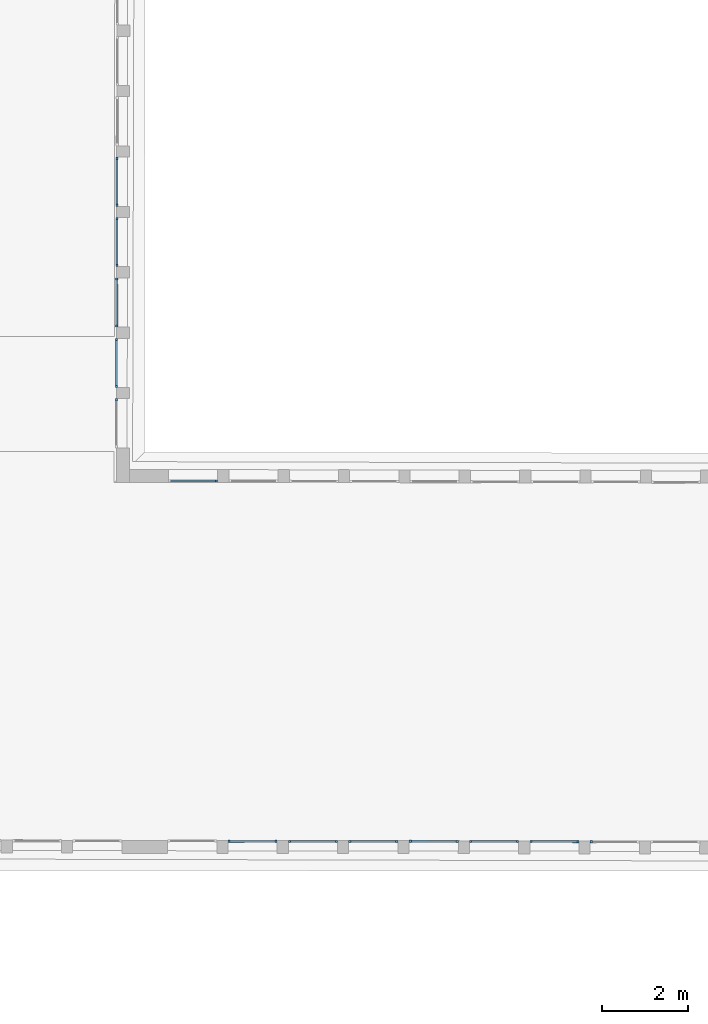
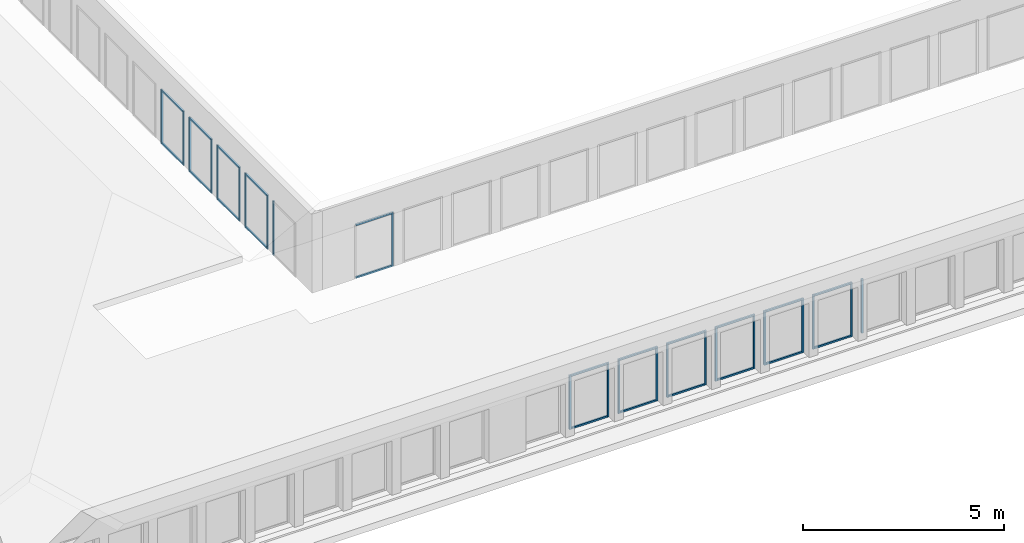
# One storey, part 4 of 26: 45 members, 13 elements without a shape of their own.
"""IFC2X3 building model written with IfcOpenShell, lengths in metres."""

from ifc_helpers import new_model, entity, si_unit, converted_unit, derived_unit, direction, frame, origin, origin_2d_with_axis, place, context, subcontext, project, spatial, rectangle, extrude, source, transform, mapped, material, type_object, type_shapes, element, aggregate, save


model = new_model("IFC2X3")

# Units and contexts
model_context = context("Model", 3, precision=1e-05, world=origin(), true_north=direction((6.123233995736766e-17, 1.0)))
body_context = subcontext(model_context, "Body", "Model", "MODEL_VIEW")
ifc_project = project(units=[si_unit("LENGTHUNIT", "METRE"), si_unit("AREAUNIT", "SQUARE_METRE"), converted_unit("PLANEANGLEUNIT", "DEGREE", entity("IfcPlaneAngleMeasure", 0.017453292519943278), si_unit("PLANEANGLEUNIT", "RADIAN"), dimensions=[0, 0, 0, 0, 0, 0, 0]), derived_unit("THERMALTRANSMITTANCEUNIT", [(si_unit("MASSUNIT", "GRAM", prefix="KILO"), 1), (si_unit("THERMODYNAMICTEMPERATUREUNIT", "KELVIN"), -1), (si_unit("TIMEUNIT", "SECOND"), -3)])], contexts=[model_context])

# Site, building, storey
site_placement = place(None, frame((1253.6752467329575, 2072.143113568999, 91.49999999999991), z_axis=(0.0, 0.0, 1.0), x_axis=(0.7237211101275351, 0.6900925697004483, 0.0)))
site = spatial("IfcSite", under=ifc_project, at=site_placement, Name="Surface", CompositionType="ELEMENT")
building_placement = place(site_placement, origin())
building = spatial("IfcBuilding", under=site, at=building_placement, CompositionType="ELEMENT")
storey_placement = place(building_placement, frame((0.0, 0.0, 7.0)))
storey = spatial("IfcBuildingStorey", under=building, at=storey_placement, Name="2-R+2", CompositionType="ELEMENT", Elevation=6.999999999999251)

# Curtain wall, member
curtain_wall_type = type_object("IfcCurtainWallType", Name="Mur-rideau:Menuiserie Ext 1F+1OB VERTIC", PredefinedType="NOTDEFINED")
curtain_wall_1_placement = place(storey_placement, frame((0.0, 0.0, -7.0)))
curtain_wall_1 = element("IfcCurtainWall", 1, at=curtain_wall_1_placement, inside=storey, type_object=curtain_wall_type, Name="Mur-rideau:Menuiserie Ext 1F+1OB VERTIC", ObjectType="Mur-rideau:Menuiserie Ext 1F+1OB VERTIC")
ifc_material = material(Name="OMD_Aluminium Men Ext")
member_type_1 = type_object("IfcMemberType", Name="Meneau rectangulaire:50x50", PredefinedType="MULLION", material=ifc_material)
shared_shape_1 = source(origin(), body_context, "Body", "SweptSolid", [
    extrude(rectangle(XDim=0.05, YDim=0.049999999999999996, at=origin_2d_with_axis()), frame((-0.025, 0.0, -1.039999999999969), z_axis=(0.0, 0.0, 1.0), x_axis=(-1.0, 0.0, 0.0)), (0.0, 0.0, 1.0), 1.0399999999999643),
])
type_shapes(member_type_1, [shared_shape_1])
member_1_placement = place(curtain_wall_1_placement, frame((164.80145826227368, 6.462655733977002, 9.55), z_axis=(0.6909838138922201, 0.7228702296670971, 0.0), x_axis=(0.0, 0.0, 1.0)))
member_1 = element("IfcMember", 2, at=member_1_placement, type_object=member_type_1, material=ifc_material, Name="Meneau rectangulaire:50x50", ObjectType="Meneau rectangulaire:50x50", context=body_context, shape_type="MappedRepresentation", body=[
    mapped(shared_shape_1, transform((0.0, 0.0, 0.0), scale=1.0)),
])

curtain_wall_2_placement = place(storey_placement, frame((0.0, 0.0, -7.0)))
curtain_wall_2 = element("IfcCurtainWall", 3, at=curtain_wall_2_placement, inside=storey, type_object=curtain_wall_type, Name="Mur-rideau:Menuiserie Ext 1F+1OB VERTIC", ObjectType="Mur-rideau:Menuiserie Ext 1F+1OB VERTIC")
member_2_placement = place(curtain_wall_2_placement, frame((163.83269277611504, 5.451966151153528, 9.55), z_axis=(0.6909838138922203, 0.7228702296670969, 0.0), x_axis=(0.0, 0.0, 1.0)))
member_2 = element("IfcMember", 4, at=member_2_placement, type_object=member_type_1, material=ifc_material, Name="Meneau rectangulaire:50x50", ObjectType="Meneau rectangulaire:50x50", context=body_context, shape_type="MappedRepresentation", body=[
    mapped(shared_shape_1, transform((0.0, 0.0, 0.0), scale=1.0)),
])

curtain_wall_3_placement = place(storey_placement, frame((0.0, 0.0, -7.0)))
curtain_wall_3 = element("IfcCurtainWall", 5, at=curtain_wall_3_placement, inside=storey, type_object=curtain_wall_type, Name="Mur-rideau:Menuiserie Ext 1F+1OB VERTIC", ObjectType="Mur-rideau:Menuiserie Ext 1F+1OB VERTIC")
member_3_placement = place(curtain_wall_3_placement, frame((162.8639272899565, 4.441276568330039, 9.55), z_axis=(0.6909838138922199, 0.7228702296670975, 0.0), x_axis=(0.0, 0.0, 1.0)))
member_3 = element("IfcMember", 6, at=member_3_placement, type_object=member_type_1, material=ifc_material, Name="Meneau rectangulaire:50x50", ObjectType="Meneau rectangulaire:50x50", context=body_context, shape_type="MappedRepresentation", body=[
    mapped(shared_shape_1, transform((0.0, 0.0, 0.0), scale=1.0)),
])

curtain_wall_4_placement = place(storey_placement, frame((0.0, 0.0, -7.0)))
curtain_wall_4 = element("IfcCurtainWall", 7, at=curtain_wall_4_placement, inside=storey, type_object=curtain_wall_type, Name="Mur-rideau:Menuiserie Ext 1F+1OB VERTIC", ObjectType="Mur-rideau:Menuiserie Ext 1F+1OB VERTIC")
member_4_placement = place(curtain_wall_4_placement, frame((161.89516180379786, 3.4305869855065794, 9.55), z_axis=(0.6909838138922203, 0.7228702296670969, 0.0), x_axis=(0.0, 0.0, 1.0)))
member_4 = element("IfcMember", 8, at=member_4_placement, type_object=member_type_1, material=ifc_material, Name="Meneau rectangulaire:50x50", ObjectType="Meneau rectangulaire:50x50", context=body_context, shape_type="MappedRepresentation", body=[
    mapped(shared_shape_1, transform((0.0, 0.0, 0.0), scale=1.0)),
])

curtain_wall_5_placement = place(storey_placement, frame((0.0, 0.0, -7.0)))
curtain_wall_5 = element("IfcCurtainWall", 9, at=curtain_wall_5_placement, inside=storey, type_object=curtain_wall_type, Name="Mur-rideau:Menuiserie Ext 1F+1OB VERTIC", ObjectType="Mur-rideau:Menuiserie Ext 1F+1OB VERTIC")
member_5_placement = place(curtain_wall_5_placement, frame((161.30523311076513, -0.5127198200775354, 9.55), z_axis=(0.7228702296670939, -0.6909838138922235, 0.0), x_axis=(0.0, 0.0, 1.0)))
member_5 = element("IfcMember", 10, at=member_5_placement, type_object=member_type_1, material=ifc_material, Name="Meneau rectangulaire:50x50", ObjectType="Meneau rectangulaire:50x50", context=body_context, shape_type="MappedRepresentation", body=[
    mapped(shared_shape_1, transform((0.0, 0.0, 0.0), scale=1.0)),
])

curtain_wall_6_placement = place(storey_placement, frame((0.0, 0.0, -7.0)))
curtain_wall_6 = element("IfcCurtainWall", 11, at=curtain_wall_6_placement, inside=storey, type_object=curtain_wall_type, Name="Mur-rideau:Menuiserie Ext 1F+1OB VERTIC", ObjectType="Mur-rideau:Menuiserie Ext 1F+1OB VERTIC")
member_6_placement = place(curtain_wall_6_placement, frame((160.84555256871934, -11.627908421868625, 9.55), z_axis=(-0.7228702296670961, 0.6909838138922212, 0.0), x_axis=(0.0, 0.0, 1.0)))
member_6 = element("IfcMember", 12, at=member_6_placement, type_object=member_type_1, material=ifc_material, Name="Meneau rectangulaire:50x50", ObjectType="Meneau rectangulaire:50x50", context=body_context, shape_type="MappedRepresentation", body=[
    mapped(shared_shape_1, transform((0.0, 0.0, 0.0), scale=1.0)),
])

curtain_wall_7_placement = place(storey_placement, frame((0.0, 0.0, -7.0)))
curtain_wall_7 = element("IfcCurtainWall", 13, at=curtain_wall_7_placement, inside=storey, type_object=curtain_wall_type, Name="Mur-rideau:Menuiserie Ext 1F+1OB VERTIC", ObjectType="Mur-rideau:Menuiserie Ext 1F+1OB VERTIC")
member_7_placement = place(curtain_wall_7_placement, frame((159.83486298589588, -10.659142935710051, 9.55), z_axis=(-0.7228702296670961, 0.6909838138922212, 0.0), x_axis=(0.0, 0.0, 1.0)))
member_7 = element("IfcMember", 14, at=member_7_placement, type_object=member_type_1, material=ifc_material, Name="Meneau rectangulaire:50x50", ObjectType="Meneau rectangulaire:50x50", context=body_context, shape_type="MappedRepresentation", body=[
    mapped(shared_shape_1, transform((0.0, 0.0, 0.0), scale=1.0)),
])

curtain_wall_8_placement = place(storey_placement, frame((0.0, 0.0, -7.0)))
curtain_wall_8 = element("IfcCurtainWall", 15, at=curtain_wall_8_placement, inside=storey, type_object=curtain_wall_type, Name="Mur-rideau:Menuiserie Ext 1F+1OB VERTIC", ObjectType="Mur-rideau:Menuiserie Ext 1F+1OB VERTIC")
member_8_placement = place(curtain_wall_8_placement, frame((158.82417340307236, -9.690377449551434, 9.55), z_axis=(-0.7228702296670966, 0.6909838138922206, 0.0), x_axis=(0.0, 0.0, 1.0)))
member_8 = element("IfcMember", 16, at=member_8_placement, type_object=member_type_1, material=ifc_material, Name="Meneau rectangulaire:50x50", ObjectType="Meneau rectangulaire:50x50", context=body_context, shape_type="MappedRepresentation", body=[
    mapped(shared_shape_1, transform((0.0, 0.0, 0.0), scale=1.0)),
])

curtain_wall_9_placement = place(storey_placement, frame((0.0, 0.0, -7.0)))
curtain_wall_9 = element("IfcCurtainWall", 17, at=curtain_wall_9_placement, inside=storey, type_object=curtain_wall_type, Name="Mur-rideau:Menuiserie Ext 1F+1OB VERTIC", ObjectType="Mur-rideau:Menuiserie Ext 1F+1OB VERTIC")
member_9_placement = place(curtain_wall_9_placement, frame((157.80656406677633, -8.72883117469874, 9.55), z_axis=(-0.7228702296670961, 0.6909838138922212, 0.0), x_axis=(0.0, 0.0, 1.0)))
member_9 = element("IfcMember", 18, at=member_9_placement, type_object=member_type_1, material=ifc_material, Name="Meneau rectangulaire:50x50", ObjectType="Meneau rectangulaire:50x50", context=body_context, shape_type="MappedRepresentation", body=[
    mapped(shared_shape_1, transform((0.0, 0.0, 0.0), scale=1.0)),
])

curtain_wall_10_placement = place(storey_placement, frame((0.0, 0.0, -7.0)))
curtain_wall_10 = element("IfcCurtainWall", 19, at=curtain_wall_10_placement, inside=storey, type_object=curtain_wall_type, Name="Mur-rideau:Menuiserie Ext 1F+1OB VERTIC", ObjectType="Mur-rideau:Menuiserie Ext 1F+1OB VERTIC")
member_10_placement = place(curtain_wall_10_placement, frame((156.79587448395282, -7.760065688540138, 9.55), z_axis=(-0.7228702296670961, 0.6909838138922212, 0.0), x_axis=(0.0, 0.0, 1.0)))
member_10 = element("IfcMember", 20, at=member_10_placement, type_object=member_type_1, material=ifc_material, Name="Meneau rectangulaire:50x50", ObjectType="Meneau rectangulaire:50x50", context=body_context, shape_type="MappedRepresentation", body=[
    mapped(shared_shape_1, transform((0.0, 0.0, 0.0), scale=1.0)),
])

curtain_wall_11_placement = place(storey_placement, frame((0.0, 0.0, -7.0)))
curtain_wall_11 = element("IfcCurtainWall", 21, at=curtain_wall_11_placement, inside=storey, type_object=curtain_wall_type, Name="Mur-rideau:Menuiserie Ext 1F+1OB VERTIC", ObjectType="Mur-rideau:Menuiserie Ext 1F+1OB VERTIC")
member_11_placement = place(curtain_wall_11_placement, frame((155.78518490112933, -6.791300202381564, 9.55), z_axis=(-0.722870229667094, 0.6909838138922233, 0.0), x_axis=(0.0, 0.0, 1.0)))
member_11 = element("IfcMember", 22, at=member_11_placement, type_object=member_type_1, material=ifc_material, Name="Meneau rectangulaire:50x50", ObjectType="Meneau rectangulaire:50x50", context=body_context, shape_type="MappedRepresentation", body=[
    mapped(shared_shape_1, transform((0.0, 0.0, 0.0), scale=1.0)),
])

# Member
member_type_2 = type_object("IfcMemberType", Name="Meneau rectangulaire:50x50", PredefinedType="MULLION", material=ifc_material)
shared_shape_2 = source(origin(), body_context, "Body", "SweptSolid", [
    extrude(rectangle(XDim=0.05, YDim=0.05, at=origin_2d_with_axis()), frame((-0.025, 0.0, -1.0399999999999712), z_axis=(0.0, 0.0, 1.0), x_axis=(-1.0, 0.0, 0.0)), (0.0, 0.0, 1.0), 1.0399999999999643),
])
type_shapes(member_type_2, [shared_shape_2])
member_12_placement = place(curtain_wall_1_placement, frame((164.0828350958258, 5.710870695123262, 7.9), z_axis=(-0.6909838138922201, -0.7228702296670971, 0.0), x_axis=(0.0, 0.0, -1.0)))
member_12 = element("IfcMember", 23, at=member_12_placement, type_object=member_type_2, material=ifc_material, Name="Meneau rectangulaire:50x50", ObjectType="Meneau rectangulaire:50x50", context=body_context, shape_type="MappedRepresentation", body=[
    mapped(shared_shape_2, transform((0.0, 0.0, 0.0), scale=1.0)),
])

member_13_placement = place(curtain_wall_2_placement, frame((163.11406960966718, 4.700181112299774, 7.9), z_axis=(-0.6909838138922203, -0.7228702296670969, 0.0), x_axis=(0.0, 0.0, -1.0)))
member_13 = element("IfcMember", 24, at=member_13_placement, type_object=member_type_2, material=ifc_material, Name="Meneau rectangulaire:50x50", ObjectType="Meneau rectangulaire:50x50", context=body_context, shape_type="MappedRepresentation", body=[
    mapped(shared_shape_2, transform((0.0, 0.0, 0.0), scale=1.0)),
])

member_14_placement = place(curtain_wall_3_placement, frame((162.14530412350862, 3.6894915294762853, 7.9), z_axis=(-0.6909838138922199, -0.7228702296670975, 0.0), x_axis=(0.0, 0.0, -1.0)))
member_14 = element("IfcMember", 25, at=member_14_placement, type_object=member_type_2, material=ifc_material, Name="Meneau rectangulaire:50x50", ObjectType="Meneau rectangulaire:50x50", context=body_context, shape_type="MappedRepresentation", body=[
    mapped(shared_shape_2, transform((0.0, 0.0, 0.0), scale=1.0)),
])

member_15_placement = place(curtain_wall_4_placement, frame((161.17653863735, 2.6788019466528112, 7.9), z_axis=(-0.6909838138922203, -0.7228702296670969, 0.0), x_axis=(0.0, 0.0, -1.0)))
member_15 = element("IfcMember", 26, at=member_15_placement, type_object=member_type_2, material=ifc_material, Name="Meneau rectangulaire:50x50", ObjectType="Meneau rectangulaire:50x50", context=body_context, shape_type="MappedRepresentation", body=[
    mapped(shared_shape_2, transform((0.0, 0.0, 0.0), scale=1.0)),
])

member_16_placement = place(curtain_wall_5_placement, frame((160.55344807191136, 0.205903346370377, 7.9), z_axis=(-0.7228702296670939, 0.6909838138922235, 0.0), x_axis=(0.0, 0.0, -1.0)))
member_16 = element("IfcMember", 27, at=member_16_placement, type_object=member_type_2, material=ifc_material, Name="Meneau rectangulaire:50x50", ObjectType="Meneau rectangulaire:50x50", context=body_context, shape_type="MappedRepresentation", body=[
    mapped(shared_shape_2, transform((0.0, 0.0, 0.0), scale=1.0)),
])

member_17_placement = place(curtain_wall_6_placement, frame((161.59733760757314, -12.346531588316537, 7.900000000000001), z_axis=(0.7228702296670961, -0.6909838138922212, 0.0), x_axis=(0.0, 0.0, -1.0)))
member_17 = element("IfcMember", 28, at=member_17_placement, type_object=member_type_2, material=ifc_material, Name="Meneau rectangulaire:50x50", ObjectType="Meneau rectangulaire:50x50", context=body_context, shape_type="MappedRepresentation", body=[
    mapped(shared_shape_2, transform((0.0, 0.0, 0.0), scale=1.0)),
])

member_18_placement = place(curtain_wall_7_placement, frame((160.58664802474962, -11.377766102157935, 7.900000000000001), z_axis=(0.7228702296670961, -0.6909838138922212, 0.0), x_axis=(0.0, 0.0, -1.0)))
member_18 = element("IfcMember", 29, at=member_18_placement, type_object=member_type_2, material=ifc_material, Name="Meneau rectangulaire:50x50", ObjectType="Meneau rectangulaire:50x50", context=body_context, shape_type="MappedRepresentation", body=[
    mapped(shared_shape_2, transform((0.0, 0.0, 0.0), scale=1.0)),
])

member_19_placement = place(curtain_wall_8_placement, frame((159.5759584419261, -10.40900061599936, 7.900000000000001), z_axis=(0.7228702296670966, -0.6909838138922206, 0.0), x_axis=(0.0, 0.0, -1.0)))
member_19 = element("IfcMember", 30, at=member_19_placement, type_object=member_type_2, material=ifc_material, Name="Meneau rectangulaire:50x50", ObjectType="Meneau rectangulaire:50x50", context=body_context, shape_type="MappedRepresentation", body=[
    mapped(shared_shape_2, transform((0.0, 0.0, 0.0), scale=1.0)),
])

member_20_placement = place(curtain_wall_9_placement, frame((158.5583491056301, -9.447454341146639, 7.900000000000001), z_axis=(0.7228702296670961, -0.6909838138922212, 0.0), x_axis=(0.0, 0.0, -1.0)))
member_20 = element("IfcMember", 31, at=member_20_placement, type_object=member_type_2, material=ifc_material, Name="Meneau rectangulaire:50x50", ObjectType="Meneau rectangulaire:50x50", context=body_context, shape_type="MappedRepresentation", body=[
    mapped(shared_shape_2, transform((0.0, 0.0, 0.0), scale=1.0)),
])

member_21_placement = place(curtain_wall_10_placement, frame((157.5476595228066, -8.478688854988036, 7.900000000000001), z_axis=(0.7228702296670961, -0.6909838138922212, 0.0), x_axis=(0.0, 0.0, -1.0)))
member_21 = element("IfcMember", 32, at=member_21_placement, type_object=member_type_2, material=ifc_material, Name="Meneau rectangulaire:50x50", ObjectType="Meneau rectangulaire:50x50", context=body_context, shape_type="MappedRepresentation", body=[
    mapped(shared_shape_2, transform((0.0, 0.0, 0.0), scale=1.0)),
])

member_22_placement = place(curtain_wall_11_placement, frame((156.5369699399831, -7.509923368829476, 7.900000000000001), z_axis=(0.722870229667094, -0.6909838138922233, 0.0), x_axis=(0.0, 0.0, -1.0)))
member_22 = element("IfcMember", 33, at=member_22_placement, type_object=member_type_2, material=ifc_material, Name="Meneau rectangulaire:50x50", ObjectType="Meneau rectangulaire:50x50", context=body_context, shape_type="MappedRepresentation", body=[
    mapped(shared_shape_2, transform((0.0, 0.0, 0.0), scale=1.0)),
])

member_type_3 = type_object("IfcMemberType", Name="Meneau rectangulaire:50x50", PredefinedType="MULLION", material=ifc_material)
shared_shape_3 = source(origin(), body_context, "Body", "SweptSolid", [
    extrude(rectangle(XDim=0.05, YDim=0.05, at=origin_2d_with_axis()), frame((-0.025, 0.0, -1.6499999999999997), z_axis=(0.0, 0.0, 1.0), x_axis=(-1.0, 0.0, 0.0)), (0.0, 0.0, 1.0), 1.6499999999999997),
])
type_shapes(member_type_3, [shared_shape_3])
member_23_placement = place(curtain_wall_1_placement, frame((164.8360074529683, 6.498799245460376, 7.9), z_axis=(0.0, 0.0, -1.0), x_axis=(0.6909838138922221, 0.7228702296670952, 0.0)))
member_23 = element("IfcMember", 34, at=member_23_placement, type_object=member_type_3, material=ifc_material, Name="Meneau rectangulaire:50x50", ObjectType="Meneau rectangulaire:50x50", context=body_context, shape_type="MappedRepresentation", body=[
    mapped(shared_shape_3, transform((0.0, 0.0, 0.0), scale=1.0)),
])

member_24_placement = place(curtain_wall_2_placement, frame((163.86724196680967, 5.488109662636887, 7.9), z_axis=(0.0, 0.0, -1.0), x_axis=(0.6909838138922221, 0.7228702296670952, 0.0)))
member_24 = element("IfcMember", 35, at=member_24_placement, type_object=member_type_3, material=ifc_material, Name="Meneau rectangulaire:50x50", ObjectType="Meneau rectangulaire:50x50", context=body_context, shape_type="MappedRepresentation", body=[
    mapped(shared_shape_3, transform((0.0, 0.0, 0.0), scale=1.0)),
])

member_25_placement = place(curtain_wall_3_placement, frame((162.89847648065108, 4.477420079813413, 7.9), z_axis=(0.0, 0.0, -1.0), x_axis=(0.6909838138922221, 0.7228702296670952, 0.0)))
member_25 = element("IfcMember", 36, at=member_25_placement, type_object=member_type_3, material=ifc_material, Name="Meneau rectangulaire:50x50", ObjectType="Meneau rectangulaire:50x50", context=body_context, shape_type="MappedRepresentation", body=[
    mapped(shared_shape_3, transform((0.0, 0.0, 0.0), scale=1.0)),
])

member_26_placement = place(curtain_wall_4_placement, frame((161.9297109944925, 3.466730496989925, 7.9), z_axis=(0.0, 0.0, -1.0), x_axis=(0.6909838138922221, 0.7228702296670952, 0.0)))
member_26 = element("IfcMember", 37, at=member_26_placement, type_object=member_type_3, material=ifc_material, Name="Meneau rectangulaire:50x50", ObjectType="Meneau rectangulaire:50x50", context=body_context, shape_type="MappedRepresentation", body=[
    mapped(shared_shape_3, transform((0.0, 0.0, 0.0), scale=1.0)),
])

# Curtain wall, member
curtain_wall_12_placement = place(storey_placement, frame((0.0, 0.0, -7.0)))
curtain_wall_12 = element("IfcCurtainWall", 38, at=curtain_wall_12_placement, inside=storey, type_object=curtain_wall_type, Name="Mur-rideau:Menuiserie Ext 1F+1OB VERTIC", ObjectType="Mur-rideau:Menuiserie Ext 1F+1OB VERTIC")
member_27_placement = place(curtain_wall_12_placement, frame((160.9609455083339, 2.4560409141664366, 7.9), z_axis=(0.0, 0.0, -1.0), x_axis=(0.6909838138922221, 0.7228702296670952, 0.0)))
member_27 = element("IfcMember", 39, at=member_27_placement, type_object=member_type_3, material=ifc_material, Name="Meneau rectangulaire:50x50", ObjectType="Meneau rectangulaire:50x50", context=body_context, shape_type="MappedRepresentation", body=[
    mapped(shared_shape_3, transform((0.0, 0.0, 0.0), scale=1.0)),
])
aggregate(curtain_wall_12, [member_27])

# Member
member_28_placement = place(curtain_wall_5_placement, frame((161.3413766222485, -0.5472690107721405, 7.9), z_axis=(0.0, 0.0, -1.0), x_axis=(0.7228702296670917, -0.6909838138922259, 0.0)))
member_28 = element("IfcMember", 40, at=member_28_placement, type_object=member_type_3, material=ifc_material, Name="Meneau rectangulaire:50x50", ObjectType="Meneau rectangulaire:50x50", context=body_context, shape_type="MappedRepresentation", body=[
    mapped(shared_shape_3, transform((0.0, 0.0, 0.0), scale=1.0)),
])

aggregate(curtain_wall_5, [member_5, member_16, member_28])

# Curtain wall, member
curtain_wall_13_placement = place(storey_placement, frame((0.0, 0.0, -7.0)))
curtain_wall_13 = element("IfcCurtainWall", 41, at=curtain_wall_13_placement, inside=storey, type_object=curtain_wall_type, Name="Mur-rideau:Menuiserie Ext 1F+1OB VERTIC", ObjectType="Mur-rideau:Menuiserie Ext 1F+1OB VERTIC")
member_29_placement = place(curtain_wall_13_placement, frame((161.82009864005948, -12.562124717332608, 7.900000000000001), z_axis=(0.0, 0.0, -1.0), x_axis=(-0.7228702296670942, 0.6909838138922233, 0.0)))
member_29 = element("IfcMember", 42, at=member_29_placement, type_object=member_type_3, material=ifc_material, Name="Meneau rectangulaire:50x50", ObjectType="Meneau rectangulaire:50x50", context=body_context, shape_type="MappedRepresentation", body=[
    mapped(shared_shape_3, transform((0.0, 0.0, 0.0), scale=1.0)),
])
aggregate(curtain_wall_13, [member_29])

# Member
member_30_placement = place(curtain_wall_6_placement, frame((160.809409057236, -11.593359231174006, 7.900000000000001), z_axis=(0.0, 0.0, -1.0), x_axis=(-0.7228702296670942, 0.6909838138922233, 0.0)))
member_30 = element("IfcMember", 43, at=member_30_placement, type_object=member_type_3, material=ifc_material, Name="Meneau rectangulaire:50x50", ObjectType="Meneau rectangulaire:50x50", context=body_context, shape_type="MappedRepresentation", body=[
    mapped(shared_shape_3, transform((0.0, 0.0, 0.0), scale=1.0)),
])

member_31_placement = place(curtain_wall_7_placement, frame((159.7987194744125, -10.624593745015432, 7.900000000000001), z_axis=(0.0, 0.0, -1.0), x_axis=(-0.7228702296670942, 0.6909838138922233, 0.0)))
member_31 = element("IfcMember", 44, at=member_31_placement, type_object=member_type_3, material=ifc_material, Name="Meneau rectangulaire:50x50", ObjectType="Meneau rectangulaire:50x50", context=body_context, shape_type="MappedRepresentation", body=[
    mapped(shared_shape_3, transform((0.0, 0.0, 0.0), scale=1.0)),
])

member_32_placement = place(curtain_wall_8_placement, frame((158.78802989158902, -9.655828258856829, 7.900000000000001), z_axis=(0.0, 0.0, -1.0), x_axis=(-0.7228702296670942, 0.6909838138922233, 0.0)))
member_32 = element("IfcMember", 45, at=member_32_placement, type_object=member_type_3, material=ifc_material, Name="Meneau rectangulaire:50x50", ObjectType="Meneau rectangulaire:50x50", context=body_context, shape_type="MappedRepresentation", body=[
    mapped(shared_shape_3, transform((0.0, 0.0, 0.0), scale=1.0)),
])

member_33_placement = place(curtain_wall_9_placement, frame((157.770420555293, -8.694281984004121, 7.900000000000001), z_axis=(0.0, 0.0, -1.0), x_axis=(-0.7228702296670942, 0.6909838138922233, 0.0)))
member_33 = element("IfcMember", 46, at=member_33_placement, type_object=member_type_3, material=ifc_material, Name="Meneau rectangulaire:50x50", ObjectType="Meneau rectangulaire:50x50", context=body_context, shape_type="MappedRepresentation", body=[
    mapped(shared_shape_3, transform((0.0, 0.0, 0.0), scale=1.0)),
])

member_34_placement = place(curtain_wall_10_placement, frame((156.75973097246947, -7.725516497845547, 7.900000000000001), z_axis=(0.0, 0.0, -1.0), x_axis=(-0.7228702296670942, 0.6909838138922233, 0.0)))
member_34 = element("IfcMember", 47, at=member_34_placement, type_object=member_type_3, material=ifc_material, Name="Meneau rectangulaire:50x50", ObjectType="Meneau rectangulaire:50x50", context=body_context, shape_type="MappedRepresentation", body=[
    mapped(shared_shape_3, transform((0.0, 0.0, 0.0), scale=1.0)),
])

member_35_placement = place(curtain_wall_11_placement, frame((155.749041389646, -6.7567510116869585, 7.900000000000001), z_axis=(0.0, 0.0, -1.0), x_axis=(-0.7228702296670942, 0.6909838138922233, 0.0)))
member_35 = element("IfcMember", 48, at=member_35_placement, type_object=member_type_3, material=ifc_material, Name="Meneau rectangulaire:50x50", ObjectType="Meneau rectangulaire:50x50", context=body_context, shape_type="MappedRepresentation", body=[
    mapped(shared_shape_3, transform((0.0, 0.0, 0.0), scale=1.0)),
])

member_type_4 = type_object("IfcMemberType", Name="Meneau rectangulaire:50x50", PredefinedType="MULLION", material=ifc_material)
shared_shape_4 = source(origin(), body_context, "Body", "SweptSolid", [
    extrude(rectangle(XDim=0.05, YDim=0.05000000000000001, at=origin_2d_with_axis()), frame((-0.025, 0.0, -1.6499999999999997), z_axis=(0.0, 0.0, 1.0), x_axis=(-1.0, 0.0, 0.0)), (0.0, 0.0, 1.0), 1.6499999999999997),
])
type_shapes(member_type_4, [shared_shape_4])
member_36_placement = place(curtain_wall_1_placement, frame((164.0482859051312, 5.674727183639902, 9.55), z_axis=(0.0, 0.0, 1.0), x_axis=(-0.6909838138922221, -0.7228702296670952, 0.0)))
member_36 = element("IfcMember", 49, at=member_36_placement, type_object=member_type_4, material=ifc_material, Name="Meneau rectangulaire:50x50", ObjectType="Meneau rectangulaire:50x50", context=body_context, shape_type="MappedRepresentation", body=[
    mapped(shared_shape_4, transform((0.0, 0.0, 0.0), scale=1.0)),
])

aggregate(curtain_wall_1, [member_1, member_12, member_23, member_36])

member_37_placement = place(curtain_wall_2_placement, frame((163.07952041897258, 4.664037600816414, 9.55), z_axis=(0.0, 0.0, 1.0), x_axis=(-0.6909838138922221, -0.7228702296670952, 0.0)))
member_37 = element("IfcMember", 50, at=member_37_placement, type_object=member_type_4, material=ifc_material, Name="Meneau rectangulaire:50x50", ObjectType="Meneau rectangulaire:50x50", context=body_context, shape_type="MappedRepresentation", body=[
    mapped(shared_shape_4, transform((0.0, 0.0, 0.0), scale=1.0)),
])

aggregate(curtain_wall_2, [member_2, member_13, member_24, member_37])

member_38_placement = place(curtain_wall_3_placement, frame((162.110754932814, 3.65334801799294, 9.55), z_axis=(0.0, 0.0, 1.0), x_axis=(-0.6909838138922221, -0.7228702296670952, 0.0)))
member_38 = element("IfcMember", 51, at=member_38_placement, type_object=member_type_4, material=ifc_material, Name="Meneau rectangulaire:50x50", ObjectType="Meneau rectangulaire:50x50", context=body_context, shape_type="MappedRepresentation", body=[
    mapped(shared_shape_4, transform((0.0, 0.0, 0.0), scale=1.0)),
])

aggregate(curtain_wall_3, [member_3, member_14, member_25, member_38])

member_39_placement = place(curtain_wall_4_placement, frame((161.14198944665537, 2.6426584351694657, 9.55), z_axis=(0.0, 0.0, 1.0), x_axis=(-0.6909838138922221, -0.7228702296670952, 0.0)))
member_39 = element("IfcMember", 52, at=member_39_placement, type_object=member_type_4, material=ifc_material, Name="Meneau rectangulaire:50x50", ObjectType="Meneau rectangulaire:50x50", context=body_context, shape_type="MappedRepresentation", body=[
    mapped(shared_shape_4, transform((0.0, 0.0, 0.0), scale=1.0)),
])

aggregate(curtain_wall_4, [member_4, member_15, member_26, member_39])

member_40_placement = place(curtain_wall_6_placement, frame((161.6334811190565, -12.381080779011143, 9.55), z_axis=(0.0, 0.0, 1.0), x_axis=(0.7228702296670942, -0.6909838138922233, 0.0)))
member_40 = element("IfcMember", 53, at=member_40_placement, type_object=member_type_4, material=ifc_material, Name="Meneau rectangulaire:50x50", ObjectType="Meneau rectangulaire:50x50", context=body_context, shape_type="MappedRepresentation", body=[
    mapped(shared_shape_4, transform((0.0, 0.0, 0.0), scale=1.0)),
])

aggregate(curtain_wall_6, [member_6, member_17, member_30, member_40])

member_41_placement = place(curtain_wall_7_placement, frame((160.622791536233, -11.412315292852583, 9.55), z_axis=(0.0, 0.0, 1.0), x_axis=(0.7228702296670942, -0.6909838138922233, 0.0)))
member_41 = element("IfcMember", 54, at=member_41_placement, type_object=member_type_4, material=ifc_material, Name="Meneau rectangulaire:50x50", ObjectType="Meneau rectangulaire:50x50", context=body_context, shape_type="MappedRepresentation", body=[
    mapped(shared_shape_4, transform((0.0, 0.0, 0.0), scale=1.0)),
])

aggregate(curtain_wall_7, [member_7, member_18, member_31, member_41])

member_42_placement = place(curtain_wall_8_placement, frame((159.61210195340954, -10.443549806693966, 9.55), z_axis=(0.0, 0.0, 1.0), x_axis=(0.7228702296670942, -0.6909838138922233, 0.0)))
member_42 = element("IfcMember", 55, at=member_42_placement, type_object=member_type_4, material=ifc_material, Name="Meneau rectangulaire:50x50", ObjectType="Meneau rectangulaire:50x50", context=body_context, shape_type="MappedRepresentation", body=[
    mapped(shared_shape_4, transform((0.0, 0.0, 0.0), scale=1.0)),
])

aggregate(curtain_wall_8, [member_8, member_19, member_32, member_42])

member_43_placement = place(curtain_wall_9_placement, frame((158.59449261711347, -9.482003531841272, 9.55), z_axis=(0.0, 0.0, 1.0), x_axis=(0.7228702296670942, -0.6909838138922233, 0.0)))
member_43 = element("IfcMember", 56, at=member_43_placement, type_object=member_type_4, material=ifc_material, Name="Meneau rectangulaire:50x50", ObjectType="Meneau rectangulaire:50x50", context=body_context, shape_type="MappedRepresentation", body=[
    mapped(shared_shape_4, transform((0.0, 0.0, 0.0), scale=1.0)),
])

aggregate(curtain_wall_9, [member_9, member_20, member_33, member_43])

member_44_placement = place(curtain_wall_10_placement, frame((157.58380303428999, -8.51323804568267, 9.55), z_axis=(0.0, 0.0, 1.0), x_axis=(0.7228702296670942, -0.6909838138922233, 0.0)))
member_44 = element("IfcMember", 57, at=member_44_placement, type_object=member_type_4, material=ifc_material, Name="Meneau rectangulaire:50x50", ObjectType="Meneau rectangulaire:50x50", context=body_context, shape_type="MappedRepresentation", body=[
    mapped(shared_shape_4, transform((0.0, 0.0, 0.0), scale=1.0)),
])

aggregate(curtain_wall_10, [member_10, member_21, member_34, member_44])

member_45_placement = place(curtain_wall_11_placement, frame((156.5731134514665, -7.544472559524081, 9.55), z_axis=(0.0, 0.0, 1.0), x_axis=(0.7228702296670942, -0.6909838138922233, 0.0)))
member_45 = element("IfcMember", 58, at=member_45_placement, type_object=member_type_4, material=ifc_material, Name="Meneau rectangulaire:50x50", ObjectType="Meneau rectangulaire:50x50", context=body_context, shape_type="MappedRepresentation", body=[
    mapped(shared_shape_4, transform((0.0, 0.0, 0.0), scale=1.0)),
])

aggregate(curtain_wall_11, [member_11, member_22, member_35, member_45])

save(model, "model.ifc")
